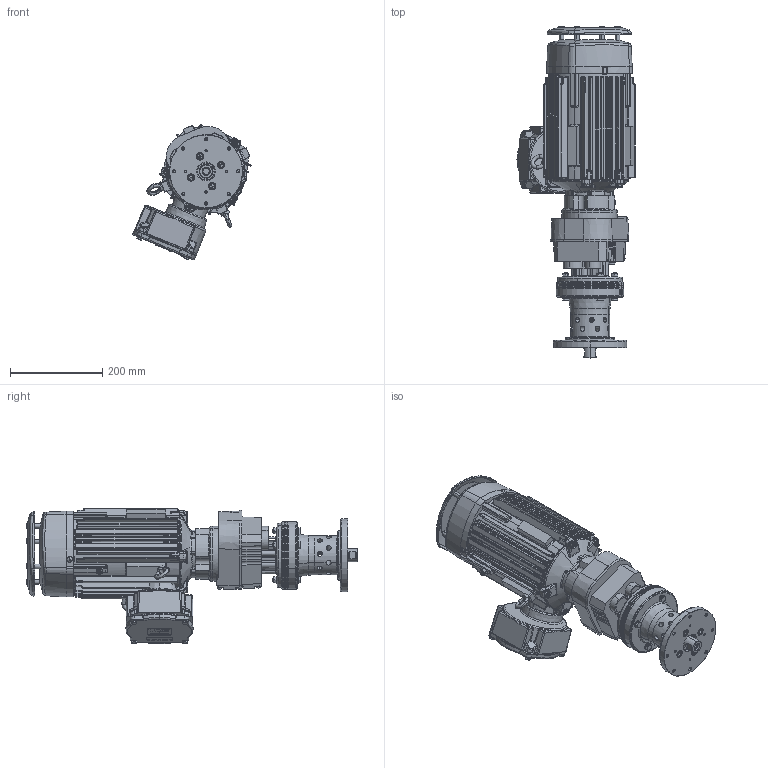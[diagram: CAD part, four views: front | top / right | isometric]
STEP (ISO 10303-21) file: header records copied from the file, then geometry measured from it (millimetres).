
FILE_DESCRIPTION (( 'STEP AP214' ), '1' );
FILE_NAME ('Elektr. Rührwerksantrieb ATEX 59Nm 1,5kW mit Gewindenabe M16_6627+5611.STEP', '2024-04-16T09:56:17', ( '' ), ( '' ), 'SwSTEP 2.0', 'SolidWorks 2022', '' );
FILE_SCHEMA (( 'AUTOMOTIVE_DESIGN' ));
Length unit declared in the file: millimetre
Products named in the file (1): Elektr. Rührwerksantrieb ATEX 59Nm 1,5kW mit Gewindenabe M16_6627+5611
Bounding box: 256.57 x 721.1 x 294.24 mm (x, y, z)
Surface area: 760050.9 mm2 (no closed solid volume)
Topology: 0 solids, 105 shells, 2398 faces, 8066 edges, 5488 vertices
Faces by surface type: cylinder 759, plane 662, bspline 456, cone 250, torus 208, sphere 63
Entity records: 149739 total; most frequent: CARTESIAN_POINT 59206, ORIENTED_EDGE 12715, DIRECTION 12544, EDGE_CURVE 7986, VERTEX_POINT 5463, AXIS2_PLACEMENT_3D 4716, VECTOR 3112, LINE 3112
